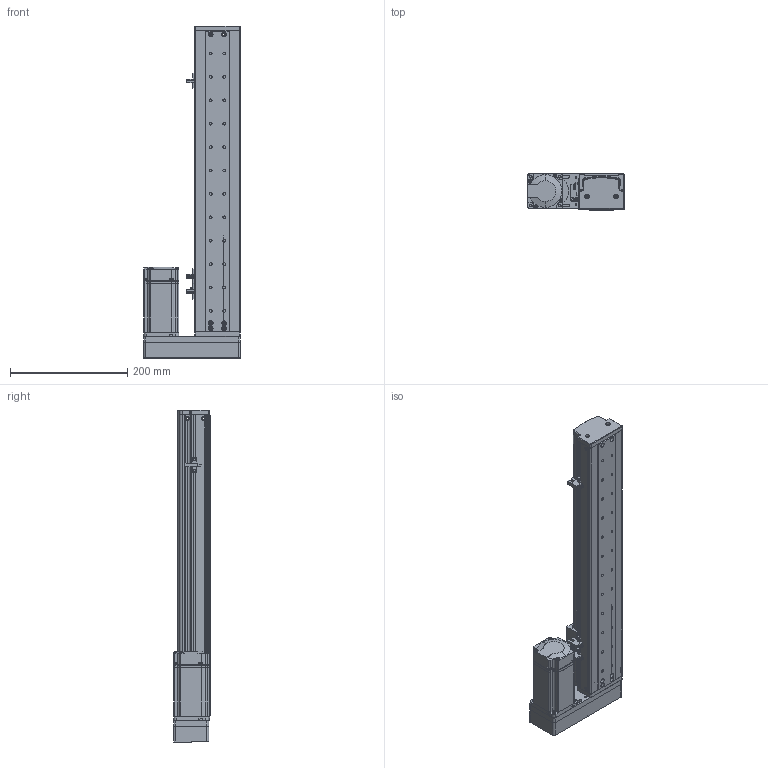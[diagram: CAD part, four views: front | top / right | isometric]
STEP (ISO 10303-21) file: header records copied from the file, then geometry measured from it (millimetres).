
FILE_DESCRIPTION (( 'STEP AP214' ), '1' );
FILE_NAME ('KSD75S-S360-MR-CM.STEP', '2019-10-18T07:13:54', ( '微软用户' ), ( '微软中国' ), 'SwSTEP 2.0', 'SolidWorks 2014', '' );
FILE_SCHEMA (( 'AUTOMOTIVE_DESIGN' ));
Length unit declared in the file: millimetre
Products named in the file (13): KSD75S-S360-MR-CM; MHMD042G1CA_2_03; 75宽模组保护罩左右折; 75宽马达安装板连板左右折丝杆; 覜茼え100遵圉猾敕; U倰嫖萇EEㄜSX672; 綴傷啣 ; ヶ傷啣; 75裔啣-360俴最; 75遵耀郪耜啣-360俴最; 75遵賑雄釱; MGW15H賑寢360俴最 ; 360俴最
Assembly tree (15 placements, depth 3):
  KSD75S-S360-MR-CM
    MGW15H賑寢360俴最 
      360俴最
    75遵賑雄釱
    75遵耀郪耜啣-360俴最  x2
    75裔啣-360俴最
    ヶ傷啣
    綴傷啣 
    U倰嫖萇EEㄜSX672  x3
    覜茼え100遵圉猾敕
    75宽马达安装板连板左右折丝杆
    75宽模组保护罩左右折
    MHMD042G1CA_2_03
Bounding box: 165 x 63 x 567.5 mm (x, y, z)
Volume: 798521.8 mm3; surface area: 501764 mm2
Topology: 13 solids, 14 shells, 1453 faces, 4114 edges, 2685 vertices
Faces by surface type: cylinder 683, plane 623, cone 129, bspline 18
Entity records: 46610 total; most frequent: CARTESIAN_POINT 8868, DIRECTION 6944, ORIENTED_EDGE 6508, EDGE_CURVE 3325, AXIS2_PLACEMENT_3D 2540, VERTEX_POINT 2203, VECTOR 1864, LINE 1864
